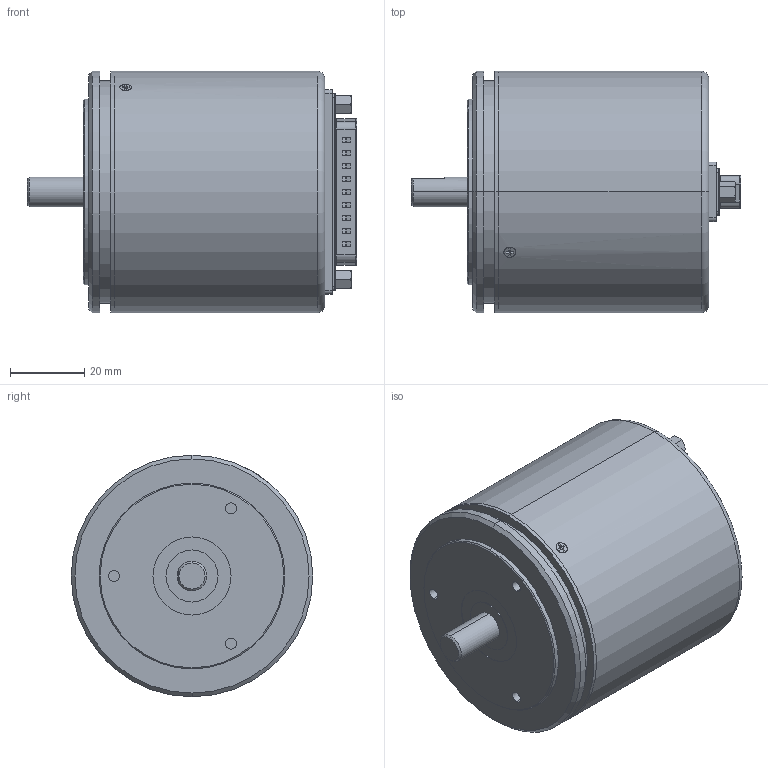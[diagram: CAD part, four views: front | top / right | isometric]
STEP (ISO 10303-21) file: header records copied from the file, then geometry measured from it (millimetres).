
FILE_DESCRIPTION (( 'STEP AP214' ), '1' );
FILE_NAME ('AMシリーズ　マルチターン式ABSエンコーダ＿コネクタ出しタイプ_Assem1.STEP', '2024-07-22T04:24:15', ( '' ), ( '' ), 'SwSTEP 2.0', 'SolidWorks 2023', '' );
FILE_SCHEMA (( 'AUTOMOTIVE_DESIGN' ));
Length unit declared in the file: millimetre
Products named in the file (6): D-Subコネクター取付スペーサー; Flat Head SCREW M2 X6 MM; D SUB 25P male; AM_コネクタ出しタイプ_Part1; AMシリーズ　マルチターン式ABSエンコーダ＿コネクタ出しタイプ_Assem1; AM_コネクタ出しタイプ_Part2
Assembly tree (6 placements, depth 2):
  AMシリーズ　マルチターン式ABSエンコーダ＿コネクタ出しタイプ_Assem1
    AM_コネクタ出しタイプ_Part1
    AM_コネクタ出しタイプ_Part2
    Flat Head SCREW M2 X6 MM
    D SUB 25P male
    D-Subコネクター取付スペーサー  x2
Bounding box: 88.6 x 65 x 65 mm (x, y, z)
Volume: 212024.9 mm3; surface area: 33026.8 mm2
Topology: 7 solids, 7 shells, 833 faces, 1915 edges, 1151 vertices
Faces by surface type: cylinder 346, bspline 148, plane 139, torus 134, cone 41, sphere 25
Entity records: 26645 total; most frequent: CARTESIAN_POINT 9505, DIRECTION 3607, ORIENTED_EDGE 3540, EDGE_CURVE 1770, AXIS2_PLACEMENT_3D 1505, VERTEX_POINT 1055, EDGE_LOOP 889, CIRCLE 839
